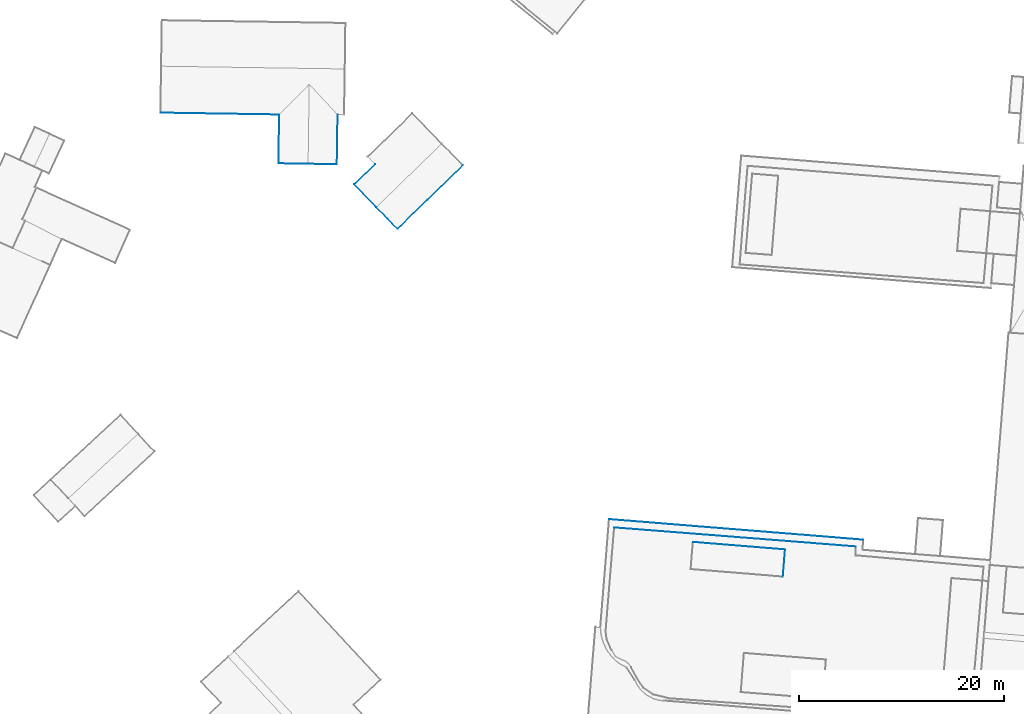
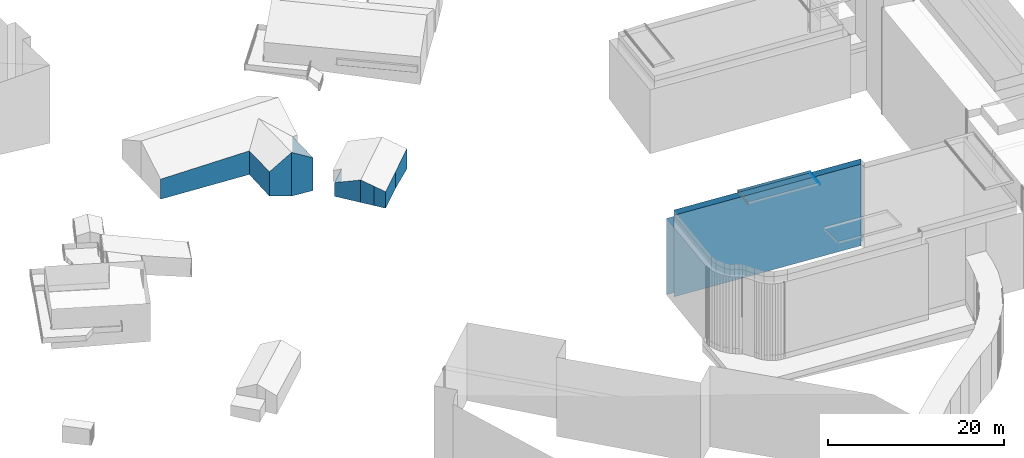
# Not in any storey, part 62 of 136: 19 walls.
"""IFC2X3 building model written with IfcOpenShell, lengths in metres."""

from ifc_helpers import new_model, entity, si_unit, converted_unit, frame, origin, place, context, subcontext, project, spatial, face_set, surface_model, element, save


model = new_model("IFC2X3")

# Units and contexts
model_context = context("Model", 3, precision=1e-05, world=origin())
body_context = subcontext(model_context, "Body", "Model", "MODEL_VIEW")
ifc_project = project(units=[converted_unit("PLANEANGLEUNIT", "DEGREE", entity("IfcRatioMeasure", 0.0174532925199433), si_unit("PLANEANGLEUNIT", "RADIAN"), dimensions=[0, 0, 0, 0, 0, 0, 0]), si_unit("AREAUNIT", "SQUARE_METRE"), si_unit("LENGTHUNIT", "METRE")], contexts=[model_context])

# Site, building
site_placement = place(None, origin())
site = spatial("IfcSite", under=ifc_project, at=site_placement, Name="_site", CompositionType="ELEMENT")
building_1_placement = place(site_placement, origin())
building_1 = spatial("IfcBuilding", under=site, at=building_1_placement, Name="_building", CompositionType="ELEMENT")

# Walls
wall_1_placement = place(building_1_placement, origin())
element("IfcWall", 1, at=wall_1_placement, inside=building_1, Name="Wall", context=body_context, shape_type="SurfaceModel", body=[
    surface_model("IfcFaceBasedSurfaceModel", [(153.33, 100.54, 43.45), (151.18, 102.75, 42.5), (151.18, 102.75, 40.576), (153.33, 100.54, 40.318)], [face_set([[[0, 1, 2, 3]]])]),
])
wall_2_placement = place(building_1_placement, origin())
element("IfcWall", 2, at=wall_2_placement, inside=building_1, Name="Wall", context=body_context, shape_type="SurfaceModel", body=[
    surface_model("IfcFaceBasedSurfaceModel", [(154.44, 99.4, 42.87), (153.33, 100.54, 43.45), (153.33, 100.54, 40.318), (154.44, 99.4, 40.185)], [face_set([[[0, 1, 2, 3]]])]),
])
wall_3_placement = place(building_1_placement, origin())
element("IfcWall", 3, at=wall_3_placement, inside=building_1, Name="Wall", context=body_context, shape_type="SurfaceModel", body=[
    surface_model("IfcFaceBasedSurfaceModel", [(151.18, 102.75, 42.5), (153.19, 104.7, 42.5), (153.19, 104.7, 40.529), (151.18, 102.75, 40.576)], [face_set([[[0, 1, 2, 3]]])]),
])
wall_4_placement = place(building_1_placement, origin())
element("IfcWall", 4, at=wall_4_placement, inside=building_1, Name="Wall", context=body_context, shape_type="SurfaceModel", body=[
    surface_model("IfcFaceBasedSurfaceModel", [(155.39, 98.42, 42.37), (154.44, 99.4, 42.87), (154.44, 99.4, 40.185), (155.39, 98.42, 40.071)], [face_set([[[0, 1, 2, 3]]])]),
])
wall_5_placement = place(building_1_placement, origin())
element("IfcWall", 5, at=wall_5_placement, inside=building_1, Name="Wall", context=body_context, shape_type="SurfaceModel", body=[
    surface_model("IfcFaceBasedSurfaceModel", [(161.76, 104.62, 42.37), (158.33, 101.28, 42.37), (158.33, 101.28, 40.07), (161.76, 104.62, 39.553)], [face_set([[[0, 1, 2, 3]]])]),
])
wall_6_placement = place(building_1_placement, origin())
element("IfcWall", 6, at=wall_6_placement, inside=building_1, Name="Wall", context=body_context, shape_type="SurfaceModel", body=[
    surface_model("IfcFaceBasedSurfaceModel", [(158.33, 101.28, 42.37), (155.39, 98.42, 42.37), (155.39, 98.42, 40.071), (158.33, 101.28, 40.07)], [face_set([[[0, 1, 2, 3]]])]),
])

# Building
building_2_placement = place(site_placement, origin())
building_2 = spatial("IfcBuilding", under=site, at=building_2_placement, Name="_building", CompositionType="ELEMENT")

# Walls
wall_7_placement = place(building_2_placement, origin())
element("IfcWall", 7, at=wall_7_placement, inside=building_2, Name="Wall", context=body_context, shape_type="SurfaceModel", body=[
    surface_model("IfcFaceBasedSurfaceModel", [(143.87, 109.55, 45.35), (132.3, 109.73, 45.35), (132.3, 109.73, 42.555), (143.87, 109.55, 42.058)], [face_set([[[0, 1, 2, 3]]])]),
])
wall_8_placement = place(building_2_placement, origin())
element("IfcWall", 8, at=wall_8_placement, inside=building_2, Name="Wall", context=body_context, shape_type="SurfaceModel", body=[
    surface_model("IfcFaceBasedSurfaceModel", [(146.67, 104.75, 47.07), (143.79, 104.8, 45.35), (143.79, 104.8, 41.946), (146.67, 104.75, 40.984)], [face_set([[[0, 1, 2, 3]]])]),
])
wall_9_placement = place(building_2_placement, origin())
element("IfcWall", 9, at=wall_9_placement, inside=building_2, Name="Wall", context=body_context, shape_type="SurfaceModel", body=[
    surface_model("IfcFaceBasedSurfaceModel", [(143.79, 104.8, 45.35), (143.87, 109.55, 45.35), (143.87, 109.55, 42.058), (143.79, 104.8, 41.946)], [face_set([[[0, 1, 2, 3]]])]),
])
wall_10_placement = place(building_2_placement, origin())
element("IfcWall", 10, at=wall_10_placement, inside=building_2, Name="Wall", context=body_context, shape_type="SurfaceModel", body=[
    surface_model("IfcFaceBasedSurfaceModel", [(149.48, 104.71, 45.35), (146.67, 104.75, 47.07), (146.67, 104.75, 40.984), (149.48, 104.71, 40.793)], [face_set([[[0, 1, 2, 3]]])]),
])
wall_11_placement = place(building_2_placement, origin())
element("IfcWall", 11, at=wall_11_placement, inside=building_2, Name="Wall", context=body_context, shape_type="SurfaceModel", body=[
    surface_model("IfcFaceBasedSurfaceModel", [(149.55, 109.53, 45.35), (149.48, 104.71, 45.35), (149.48, 104.71, 40.793), (149.55, 109.53, 40.863)], [face_set([[[0, 1, 2, 3]]])]),
])

# Building
building_3_placement = place(site_placement, origin())
building_3 = spatial("IfcBuilding", under=site, at=building_3_placement, Name="_building", CompositionType="ELEMENT")

# Walls
wall_12_placement = place(building_3_placement, origin())
element("IfcWall", 12, at=wall_12_placement, inside=building_3, Name="Wall", context=body_context, shape_type="SurfaceModel", body=[
    surface_model("IfcFaceBasedSurfaceModel", [(176.0, 70.13, 48.6), (200.77, 68.13, 48.6), (200.77, 68.13, 38.0), (176.0, 70.13, 37.991)], [face_set([[[0, 1, 2, 3]]])]),
])
for number, where, name in (
    (13, (0.0, 0.0, 0.0), "Wall"),
    (14, (0.0, 0.0, 0.0), "Wall"),
):
    element("IfcWall", number, at=place(building_3_placement, frame(where)), inside=building_3, Name=name, context=body_context, shape_type="SurfaceModel", body=[
        surface_model("IfcFaceBasedSurfaceModel", [(176.5, 69.32, 49.344), (200.04, 67.47, 49.344), (200.04, 67.47, 50.094), (176.5, 69.32, 50.094)], [face_set([[[0, 1, 2, 3]]])]),
    ])
wall_13_placement = place(building_3_placement, origin())
element("IfcWall", 15, at=wall_13_placement, inside=building_3, Name="Wall", context=body_context, shape_type="SurfaceModel", body=[
    surface_model("IfcFaceBasedSurfaceModel", [(193.14, 67.18, 51.06), (192.93, 64.53, 51.06), (192.93, 64.53, 50.71), (193.14, 67.18, 50.71)], [face_set([[[0, 1, 2, 3]]])]),
])
wall_14_placement = place(building_3_placement, origin())
element("IfcWall", 16, at=wall_14_placement, inside=building_3, Name="Wall", context=body_context, shape_type="SurfaceModel", body=[
    surface_model("IfcFaceBasedSurfaceModel", [(184.17, 67.91, 51.06), (193.14, 67.18, 51.06), (193.14, 67.18, 50.71), (184.17, 67.91, 50.71)], [face_set([[[0, 1, 2, 3]]])]),
])
wall_15_placement = place(building_3_placement, origin())
element("IfcWall", 17, at=wall_15_placement, inside=building_3, Name="Wall", context=body_context, shape_type="SurfaceModel", body=[
    surface_model("IfcFaceBasedSurfaceModel", [(193.14, 67.18, 51.06), (192.93, 64.53, 51.06), (192.93, 64.53, 50.71), (193.14, 67.18, 50.71)], [face_set([[[0, 1, 2, 3]]])]),
])
wall_16_placement = place(building_3_placement, origin())
element("IfcWall", 18, at=wall_16_placement, inside=building_3, Name="Wall", context=body_context, shape_type="SurfaceModel", body=[
    surface_model("IfcFaceBasedSurfaceModel", [(184.17, 67.91, 51.06), (193.14, 67.18, 51.06), (193.14, 67.18, 50.71), (184.17, 67.91, 50.71)], [face_set([[[0, 1, 2, 3]]])]),
])
wall_17_placement = place(building_3_placement, origin())
element("IfcWall", 19, at=wall_17_placement, inside=building_3, Name="Wall", context=body_context, shape_type="SurfaceModel", body=[
    surface_model("IfcFaceBasedSurfaceModel", [(176.5, 69.32, 49.344), (200.04, 67.47, 49.344), (200.04, 67.47, 38.0), (176.5, 69.32, 37.996)], [face_set([[[0, 1, 2, 3]]])]),
])

save(model, "model.ifc")
